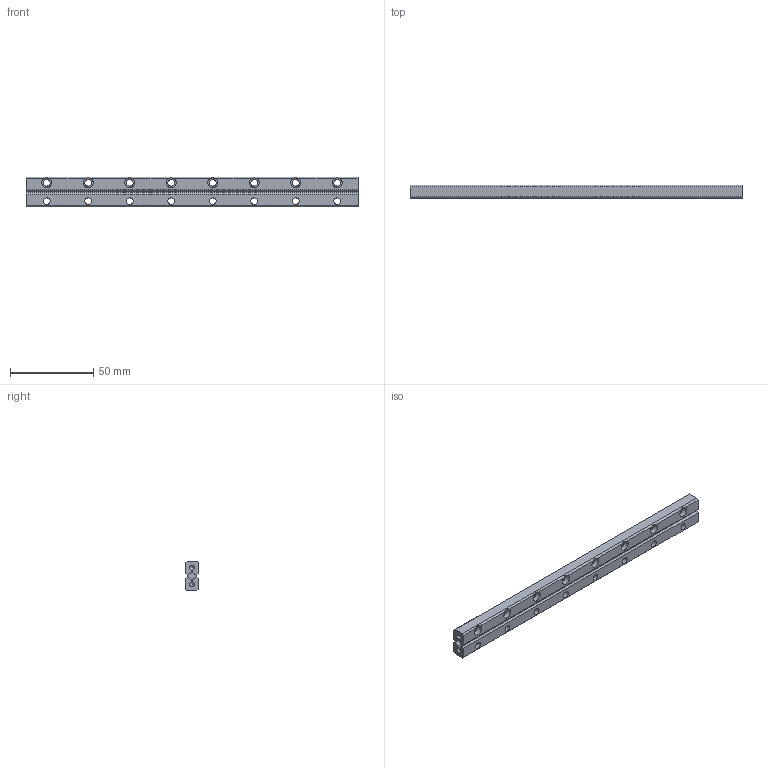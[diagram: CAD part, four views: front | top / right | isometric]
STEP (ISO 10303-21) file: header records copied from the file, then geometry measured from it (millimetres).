
FILE_DESCRIPTION((''),'2;1');
FILE_NAME('D:\製品 (図面)\カタログ用3D\リニアガイド関連\STEP形式\ACS3\ACS3200.stp','2010-07-29T15:35:37',('Tsuchiya'),(''),'Autodesk Inventor 10','Autodesk Inventor 10','');
FILE_SCHEMA(('AUTOMOTIVE_DESIGN { 1 0 10303 214 1 1 1 1 }'));
Length unit declared in the file: millimetre
Products named in the file (4): ACS3200; ACS32001; ACS32002; ACS32003
Assembly tree (3 placements, depth 2):
  ACS3200
    ACS32001
    ACS32002
    ACS32003
Bounding box: 200 x 8 x 18 mm (x, y, z)
Volume: 23838.2 mm3; surface area: 17913.4 mm2
Topology: 3 solids, 3 shells, 110 faces, 298 edges, 198 vertices
Faces by surface type: plane 52, bspline 52, cylinder 4, cone 2
Full cylindrical faces by diameter (mm): 3 x2
Entity records: 3715 total; most frequent: CARTESIAN_POINT 1189, ORIENTED_EDGE 472, DIRECTION 458, EDGE_CURVE 236, EDGE_LOOP 186, VERTEX_POINT 176, AXIS2_PLACEMENT_3D 157, VECTOR 144
